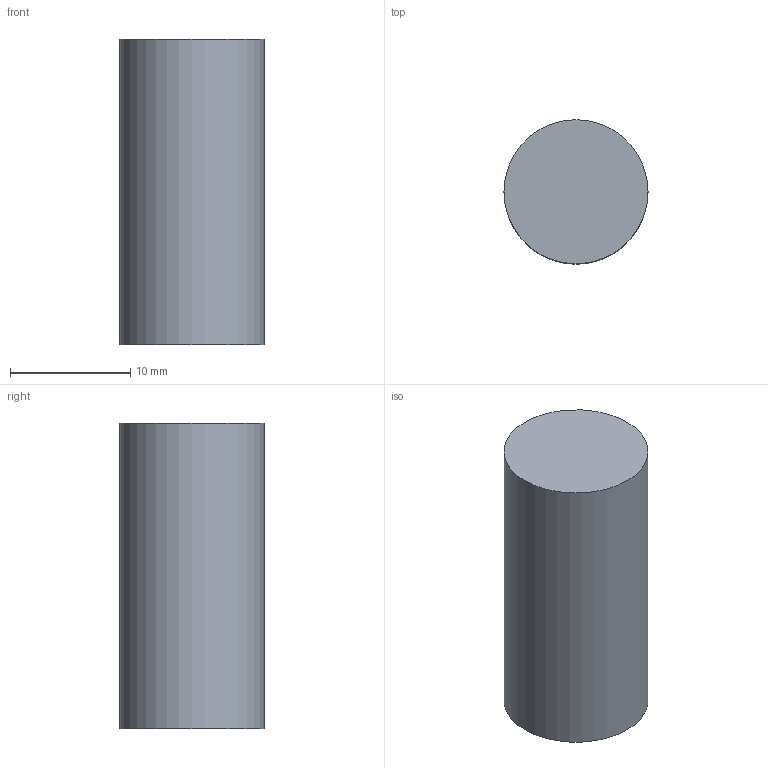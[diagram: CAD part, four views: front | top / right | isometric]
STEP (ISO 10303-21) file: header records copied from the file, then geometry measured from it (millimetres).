
FILE_DESCRIPTION((''),'2;1');
FILE_NAME('C:\Documents and Settings\Administrator\My Documents\Andys Backup Data\ANDY''S INVENTOR\INVENTOR LIBRARIES\MINITEC INVENTOR LIBRARIES\COMPONENTS LR\A PACKED FILES\STEP FILES\17.1741 SHAFT 12.stp','2010-06-30T11:24:44',('Administrator'),(''),'Autodesk Inventor 2009','Autodesk Inventor 2009','');
FILE_SCHEMA(('CONFIG_CONTROL_DESIGN'));
Length unit declared in the file: inch
Products named in the file (1): 17.1741 SHAFT 12
Bounding box: 12 x 12 x 25.4 mm (x, y, z)
Volume: 2872.7 mm3; surface area: 1183.7 mm2
Topology: 1 solids, 1 shells, 3 faces, 3 edges, 2 vertices
Faces by surface type: plane 2, cylinder 1
Full cylindrical faces by diameter (mm): 12 x1
Entity records: 73 total; most frequent: DIRECTION 12, CARTESIAN_POINT 8, AXIS2_PLACEMENT_3D 6, ORIENTED_EDGE 4, EDGE_LOOP 4, DIMENSIONAL_EXPONENTS 3, FACE_OUTER_BOUND 3, ADVANCED_FACE 3
